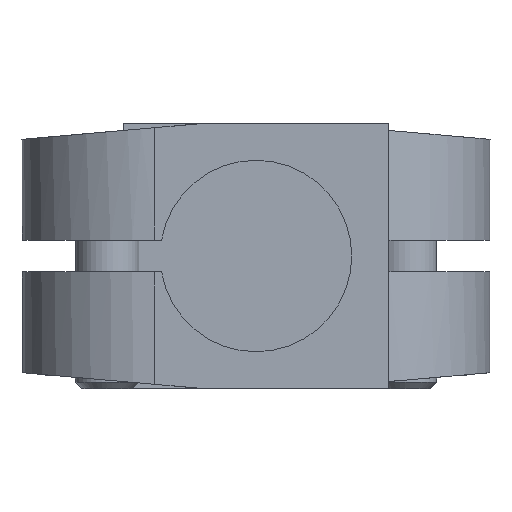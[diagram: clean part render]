
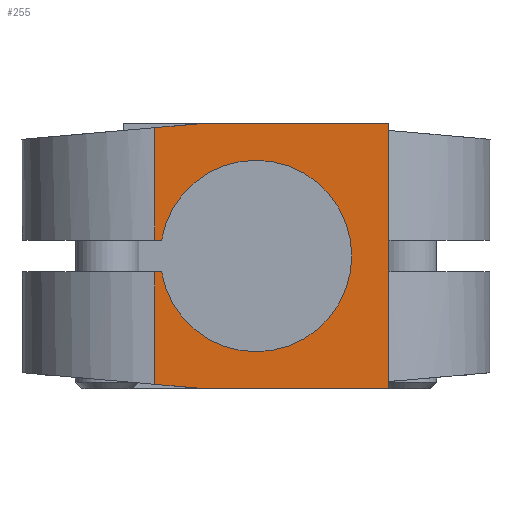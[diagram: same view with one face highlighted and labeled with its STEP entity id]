
A CAD part, left-side view. The second image highlights one B-rep face of the part: STEP entity #255.
In plain terms, the highlighted planar face has unit normal (-1, 0, 0).
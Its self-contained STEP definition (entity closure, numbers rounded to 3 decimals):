
#255 = ADVANCED_FACE( '', ( #435 ), #436, .F. );
#435 = FACE_OUTER_BOUND( '', #809, .T. );
#436 = PLANE( '', #810 );
#809 = EDGE_LOOP( '', ( #1251, #1252, #1253, #1254, #1255, #1256, #1257, #1258, #1259, #1260 ) );
#810 = AXIS2_PLACEMENT_3D( '', #1261, #1262, #1263 );
#1251 = ORIENTED_EDGE( '', *, *, #2374, .T. );
#1252 = ORIENTED_EDGE( '', *, *, #2406, .T. );
#1253 = ORIENTED_EDGE( '', *, *, #2368, .T. );
#1254 = ORIENTED_EDGE( '', *, *, #2407, .T. );
#1255 = ORIENTED_EDGE( '', *, *, #2357, .T. );
#1256 = ORIENTED_EDGE( '', *, *, #2408, .T. );
#1257 = ORIENTED_EDGE( '', *, *, #2409, .T. );
#1258 = ORIENTED_EDGE( '', *, *, #2410, .T. );
#1259 = ORIENTED_EDGE( '', *, *, #2405, .F. );
#1260 = ORIENTED_EDGE( '', *, *, #2411, .F. );
#1261 = CARTESIAN_POINT( '', ( 0., 22., 12.5 ) );
#1262 = DIRECTION( '', ( 1., 0., 0. ) );
#1263 = DIRECTION( '', ( 0., 0., -1. ) );
#2357 = EDGE_CURVE( '', #2723, #2721, #2724, .T. );
#2368 = EDGE_CURVE( '', #2737, #2741, #2743, .T. );
#2374 = EDGE_CURVE( '', #2755, #2753, #2756, .T. );
#2405 = EDGE_CURVE( '', #2809, #2806, #2811, .T. );
#2406 = EDGE_CURVE( '', #2753, #2737, #2812, .T. );
#2407 = EDGE_CURVE( '', #2741, #2723, #2813, .T. );
#2408 = EDGE_CURVE( '', #2721, #2814, #2815, .T. );
#2409 = EDGE_CURVE( '', #2814, #2816, #2817, .T. );
#2410 = EDGE_CURVE( '', #2816, #2806, #2818, .T. );
#2411 = EDGE_CURVE( '', #2755, #2809, #2819, .T. );
#2721 = VERTEX_POINT( '', #3333 );
#2723 = VERTEX_POINT( '', #3335 );
#2724 = LINE( '', #3336, #3337 );
#2737 = VERTEX_POINT( '', #3355 );
#2741 = VERTEX_POINT( '', #3360 );
#2743 = LINE( '', #3363, #3364 );
#2753 = VERTEX_POINT( '', #3378 );
#2755 = VERTEX_POINT( '', #3380 );
#2756 = LINE( '', #3381, #3382 );
#2806 = VERTEX_POINT( '', #3456 );
#2809 = VERTEX_POINT( '', #3461 );
#2811 = LINE( '', #3464, #3465 );
#2812 = LINE( '', #3466, #3467 );
#2813 = CIRCLE( '', #3468, 9. );
#2814 = VERTEX_POINT( '', #3469 );
#2815 = LINE( '', #3470, #3471 );
#2816 = VERTEX_POINT( '', #3472 );
#2817 = LINE( '', #3473, #3474 );
#2818 = LINE( '', #3475, #3476 );
#2819 = LINE( '', #3477, #3478 );
#3333 = CARTESIAN_POINT( '', ( 0., 22., -1.5 ) );
#3335 = CARTESIAN_POINT( '', ( 0., 21.374, -1.5 ) );
#3336 = CARTESIAN_POINT( '', ( 0., 12.5, -1.5 ) );
#3337 = VECTOR( '', #4350, 1000. );
#3355 = CARTESIAN_POINT( '', ( 0., 22., 1.5 ) );
#3360 = CARTESIAN_POINT( '', ( 0., 21.374, 1.5 ) );
#3363 = CARTESIAN_POINT( '', ( 0., 39.5, 1.5 ) );
#3364 = VECTOR( '', #4367, 1000. );
#3378 = CARTESIAN_POINT( '', ( 0., 22., 12.063 ) );
#3380 = CARTESIAN_POINT( '', ( 0., 17., 12.5 ) );
#3381 = CARTESIAN_POINT( '', ( 0., 17., 12.5 ) );
#3382 = VECTOR( '', #4375, 1000. );
#3456 = CARTESIAN_POINT( '', ( 0., 0., -12.5 ) );
#3461 = CARTESIAN_POINT( '', ( 0., 0., 12.5 ) );
#3464 = CARTESIAN_POINT( '', ( 0., 0., 12.5 ) );
#3465 = VECTOR( '', #4412, 1000. );
#3466 = CARTESIAN_POINT( '', ( 0., 22., 12.5 ) );
#3467 = VECTOR( '', #4413, 1000. );
#3468 = AXIS2_PLACEMENT_3D( '', #4414, #4415, #4416 );
#3469 = CARTESIAN_POINT( '', ( 0., 22., -12.063 ) );
#3470 = CARTESIAN_POINT( '', ( 0., 22., 12.5 ) );
#3471 = VECTOR( '', #4417, 1000. );
#3472 = CARTESIAN_POINT( '', ( 0., 17., -12.5 ) );
#3473 = CARTESIAN_POINT( '', ( 0., 34.5, -10.969 ) );
#3474 = VECTOR( '', #4418, 1000. );
#3475 = CARTESIAN_POINT( '', ( 0., 22., -12.5 ) );
#3476 = VECTOR( '', #4419, 1000. );
#3477 = CARTESIAN_POINT( '', ( 0., 22., 12.5 ) );
#3478 = VECTOR( '', #4420, 1000. );
#4350 = DIRECTION( '', ( 0., 1., 0. ) );
#4367 = DIRECTION( '', ( 0., -1., 0. ) );
#4375 = DIRECTION( '', ( 0., 0.996, -0.087 ) );
#4412 = DIRECTION( '', ( 0., 0., -1. ) );
#4413 = DIRECTION( '', ( 0., 0., -1. ) );
#4414 = CARTESIAN_POINT( '', ( 0., 12.5, 0. ) );
#4415 = DIRECTION( '', ( 1., 0., 0. ) );
#4416 = DIRECTION( '', ( 0., 0., -1. ) );
#4417 = DIRECTION( '', ( 0., 0., -1. ) );
#4418 = DIRECTION( '', ( 0., -0.996, -0.087 ) );
#4419 = DIRECTION( '', ( 0., -1., 0. ) );
#4420 = DIRECTION( '', ( 0., -1., 0. ) );
